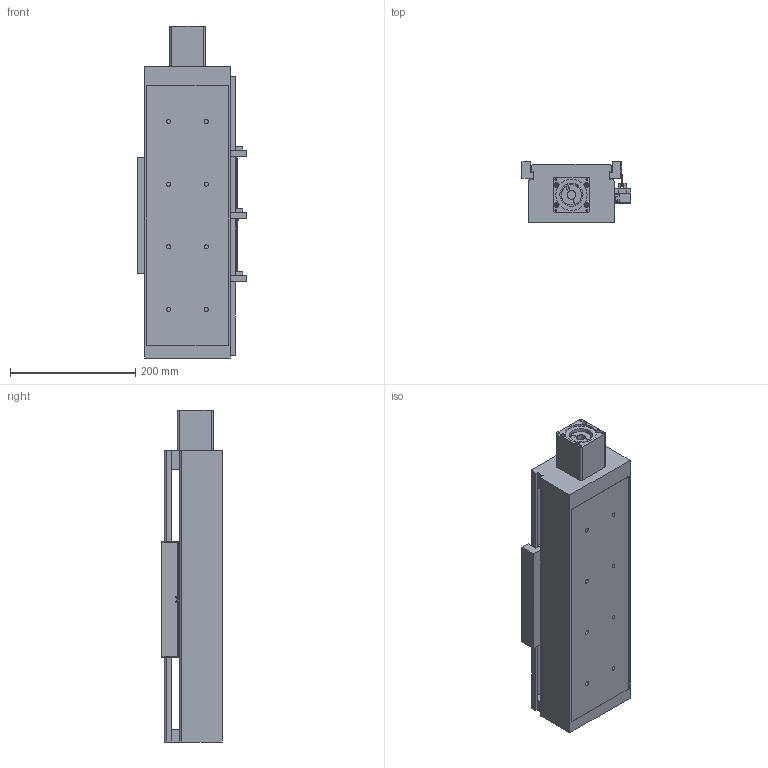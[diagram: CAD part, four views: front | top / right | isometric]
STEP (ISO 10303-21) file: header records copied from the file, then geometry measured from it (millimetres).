
FILE_DESCRIPTION((''),'2;1');
FILE_NAME('E:\libraries\UIA actuator library 2009\standard actuator\UIA136 ball screw 25\UIA136R15NDC-_ _ _-R25_ _, stp file 27Apr16\UIA136R15NDC-200-R25_ _-M60-P13-C10-S.stp','2016-04-28T10:24:24',('h029'),(''),'Autodesk Inventor 11','Autodesk Inventor 11','');
FILE_SCHEMA(('AUTOMOTIVE_DESIGN { 1 0 10303 214 1 1 1 1 }'));
Length unit declared in the file: millimetre
Products named in the file (10): UIA136R15NDC-200; UIA136R15NDC-body; motor mount F60; SOH-32C; SOH-32C-3; SOH-32C-1; SOH-32C-2; Carriage; Sensor Switch; sensor rail
Assembly tree (9 placements, depth 3):
  UIA136R15NDC-200
    UIA136R15NDC-body
    motor mount F60
    SOH-32C
      SOH-32C-3
      SOH-32C-1
      SOH-32C-2
    Carriage
    Sensor Switch
    sensor rail
Bounding box: 174.5 x 98 x 530 mm (x, y, z)
Volume: 2469164.7 mm3; surface area: 607927.1 mm2
Topology: 8 solids, 8 shells, 480 faces, 1283 edges, 838 vertices
Faces by surface type: plane 322, bspline 110, cylinder 44, cone 4
Full cylindrical faces by diameter (mm): 2.459 x2, 3.242 x2, 4.5 x2, 7 x4, 7.5 x2, 14 x3, 17 x1, 32 x3, 37 x1, 50.3 x1, 50.5 x1
Entity records: 15644 total; most frequent: CARTESIAN_POINT 4316, ORIENTED_EDGE 2208, DIRECTION 2162, EDGE_CURVE 1104, VECTOR 808, LINE 808, VERTEX_POINT 774, EDGE_LOOP 684
